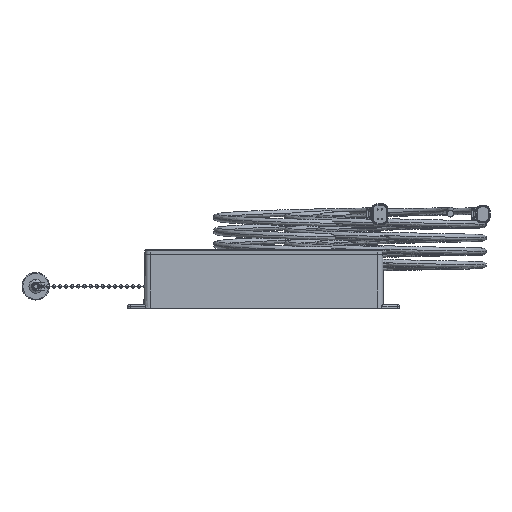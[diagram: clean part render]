
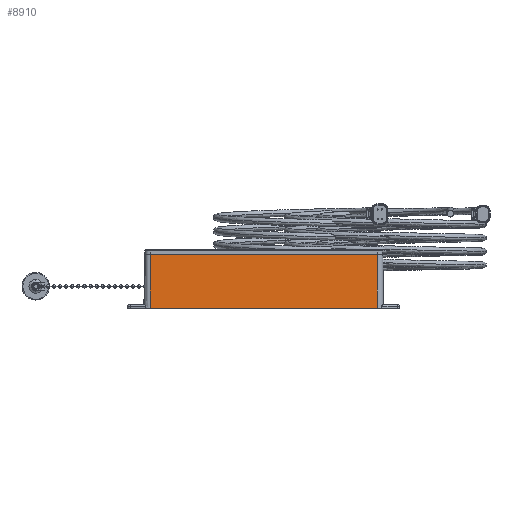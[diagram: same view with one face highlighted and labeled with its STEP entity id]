
A CAD part, left-side view. The second image highlights one B-rep face of the part: STEP entity #8910.
In plain terms, the highlighted planar face has unit normal (-1, 0, 0.018).
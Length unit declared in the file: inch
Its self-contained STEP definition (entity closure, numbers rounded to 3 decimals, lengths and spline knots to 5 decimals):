
#618 = CARTESIAN_POINT ( 'NONE',  ( -2.90837, 4.18309, 0.00004 ) ) ;
#2303 = VECTOR ( 'NONE', #37523, 39.37008 ) ;
#2759 = CARTESIAN_POINT ( 'NONE',  ( -2.90837, 4.18309, 0.00004 ) ) ;
#3319 = CARTESIAN_POINT ( 'NONE',  ( -345.8248, 4.18309, -19645.66929 ) ) ;
#4883 = EDGE_CURVE ( 'NONE', #18585, #21105, #6548, .T. ) ;
#5647 = DIRECTION ( 'NONE',  ( -1., 0., 0.017 ) ) ;
#5693 = LINE ( 'NONE', #20055, #2303 ) ;
#6548 = LINE ( 'NONE', #3319, #19100 ) ;
#8453 = CARTESIAN_POINT ( 'NONE',  ( -2.90837, -4.18305, 0.00004 ) ) ;
#8604 = ORIENTED_EDGE ( 'NONE', *, *, #10920, .T. ) ;
#8682 = VERTEX_POINT ( 'NONE', #8453 ) ;
#8910 = ADVANCED_FACE ( 'NONE', ( #26480 ), #10313, .T. ) ;
#8937 = EDGE_CURVE ( 'NONE', #25994, #21105, #5693, .T. ) ;
#9739 = EDGE_LOOP ( 'NONE', ( #34581, #16655, #31439, #8604 ) ) ;
#10313 = PLANE ( 'NONE',  #13004 ) ;
#10713 = VECTOR ( 'NONE', #15570, 39.37008 ) ;
#10920 = EDGE_CURVE ( 'NONE', #8682, #25994, #37175, .T. ) ;
#13004 = AXIS2_PLACEMENT_3D ( 'NONE', #31839, #5647, #27230 ) ;
#15108 = DIRECTION ( 'NONE',  ( 0.017, 0., 1. ) ) ;
#15570 = DIRECTION ( 'NONE',  ( 0.017, 0., 1. ) ) ;
#16655 = ORIENTED_EDGE ( 'NONE', *, *, #4883, .F. ) ;
#18585 = VERTEX_POINT ( 'NONE', #618 ) ;
#19100 = VECTOR ( 'NONE', #15108, 39.37008 ) ;
#20055 = CARTESIAN_POINT ( 'NONE',  ( -2.87401, 0.00002, 1.96854 ) ) ;
#21105 = VERTEX_POINT ( 'NONE', #26383 ) ;
#24259 = DIRECTION ( 'NONE',  ( 0., 1., 0. ) ) ;
#24611 = EDGE_CURVE ( 'NONE', #8682, #18585, #33555, .T. ) ;
#25994 = VERTEX_POINT ( 'NONE', #27934 ) ;
#26383 = CARTESIAN_POINT ( 'NONE',  ( -2.87401, 4.18309, 1.96854 ) ) ;
#26480 = FACE_OUTER_BOUND ( 'NONE', #9739, .T. ) ;
#27230 = DIRECTION ( 'NONE',  ( -0.017, 0., -1. ) ) ;
#27934 = CARTESIAN_POINT ( 'NONE',  ( -2.87401, -4.18305, 1.96854 ) ) ;
#31439 = ORIENTED_EDGE ( 'NONE', *, *, #24611, .F. ) ;
#31839 = CARTESIAN_POINT ( 'NONE',  ( -2.87401, 0.00002, 1.96854 ) ) ;
#33555 = LINE ( 'NONE', #2759, #36441 ) ;
#33710 = CARTESIAN_POINT ( 'NONE',  ( -2.87401, -4.18305, 1.96854 ) ) ;
#34581 = ORIENTED_EDGE ( 'NONE', *, *, #8937, .T. ) ;
#36441 = VECTOR ( 'NONE', #24259, 39.37008 ) ;
#37175 = LINE ( 'NONE', #33710, #10713 ) ;
#37523 = DIRECTION ( 'NONE',  ( 0., 1., 0. ) ) ;
